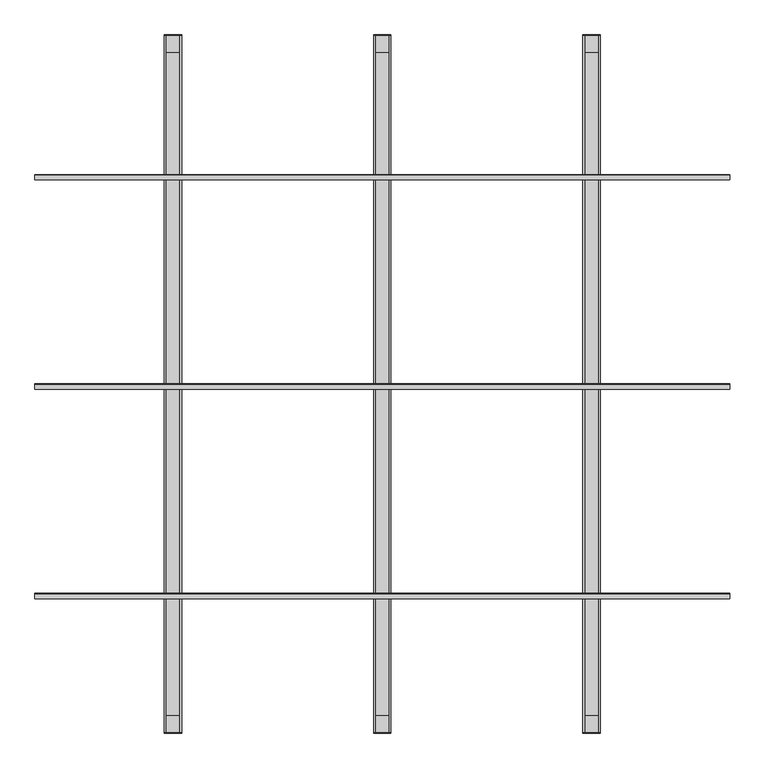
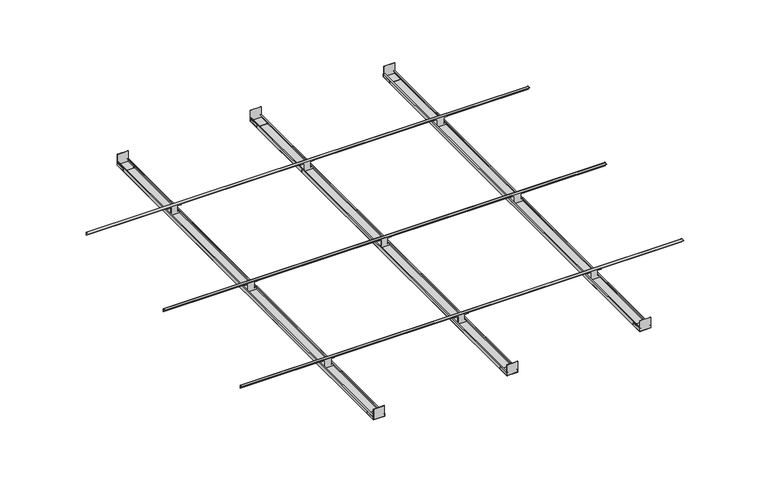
"""IFC4 building model written with IfcOpenShell, lengths in millimetres: proxy geometry, durlum_S5-100 : durlum_S5-100."""

from ifc_helpers import new_model, si_unit, point, frame, frame_2d, origin, place, context, project, spatial, polyline, circle_curve, trimmed, segment, composite_curve, outline, extrude, source, transform, mapped, element, save


def generic_models_e242ee94(model_context):
    return source(origin(), model_context, "Body", "SweptSolid", [
        extrude(outline(polyline([(48.7946553, 1900.0), (48.7946553, 1998.75), (50.0446553, 1998.75), (50.0446553, 1900.0), (48.7946553, 1900.0)])), frame((0.0, 0.0, 5406.6827843), z_axis=(0.0, 0.0, 1.0), x_axis=(1.0, 0.0, 0.0)), (0.0, 0.0, 1.0), 22.9482224),
        extrude(outline(polyline([(-48.7946553, 1900.0), (-50.0446553, 1900.0), (-50.0446553, 1998.75), (-48.7946553, 1998.75), (-48.7946553, 1900.0)])), frame((0.0, 0.0, 5406.6827843), z_axis=(0.0, 0.0, 1.0), x_axis=(1.0, 0.0, 0.0)), (0.0, 0.0, 1.0), 22.9482224),
        extrude(outline(polyline([(2000.0, 5406.6827843), (1900.0, 5406.6827843), (1900.0, 5407.9327843), (1998.75, 5407.9327843), (1998.75, 5506.6827843), (2000.0, 5506.6827843), (2000.0, 5406.6827843)])), frame((-48.7946553, 0.0, 0.0), z_axis=(1.0, 0.0, 0.0), x_axis=(0.0, 1.0, 0.0)), (0.0, 0.0, 1.0), 97.5893106),
        extrude(outline(polyline([(-48.7946553, -1900.0), (-48.7946553, -1998.75), (-50.0446553, -1998.75), (-50.0446553, -1900.0), (-48.7946553, -1900.0)])), frame((0.0, 0.0, 5406.6833069), z_axis=(0.0, 0.0, 1.0), x_axis=(1.0, 0.0, 0.0)), (0.0, 0.0, 1.0), 22.9482224),
        extrude(outline(polyline([(48.7946553, -1900.0), (50.0446553, -1900.0), (50.0446553, -1998.75), (48.7946553, -1998.75), (48.7946553, -1900.0)])), frame((0.0, 0.0, 5406.6833069), z_axis=(0.0, 0.0, 1.0), x_axis=(1.0, 0.0, 0.0)), (0.0, 0.0, 1.0), 22.9482224),
        extrude(outline(polyline([(-2000.0, 5406.6833069), (-2000.0, 5506.6833069), (-1998.75, 5506.6833069), (-1998.75, 5407.9333069), (-1900.0, 5407.9333069), (-1900.0, 5406.6833069), (-2000.0, 5406.6833069)])), frame((-48.7946553, 0.0, 0.0), z_axis=(1.0, 0.0, 0.0), x_axis=(0.0, 1.0, 0.0)), (0.0, 0.0, 1.0), 97.5893106),
        extrude(outline(polyline([(1151.2053447, -1900.0), (1151.2053447, -1998.75), (1149.9553447, -1998.75), (1149.9553447, -1900.0), (1151.2053447, -1900.0)])), frame((0.0, 0.0, 5406.6814603), z_axis=(0.0, 0.0, 1.0), x_axis=(1.0, 0.0, 0.0)), (0.0, 0.0, 1.0), 22.9482224),
        extrude(outline(polyline([(1248.7946553, -1900.0), (1250.0446553, -1900.0), (1250.0446553, -1998.75), (1248.7946553, -1998.75), (1248.7946553, -1900.0)])), frame((0.0, 0.0, 5406.6814603), z_axis=(0.0, 0.0, 1.0), x_axis=(1.0, 0.0, 0.0)), (0.0, 0.0, 1.0), 22.9482224),
        extrude(outline(polyline([(-2000.0, 5406.6814603), (-2000.0, 5506.6814603), (-1998.75, 5506.6814603), (-1998.75, 5407.9314603), (-1900.0, 5407.9314603), (-1900.0, 5406.6814603), (-2000.0, 5406.6814603)])), frame((1151.2053447, 0.0, 0.0), z_axis=(1.0, 0.0, 0.0), x_axis=(0.0, 1.0, 0.0)), (0.0, 0.0, 1.0), 97.5893106),
        extrude(outline(polyline([(1248.7946553, 1900.0), (1248.7946553, 1998.75), (1250.0446553, 1998.75), (1250.0446553, 1900.0), (1248.7946553, 1900.0)])), frame((0.0, 0.0, 5406.6804149), z_axis=(0.0, 0.0, 1.0), x_axis=(1.0, 0.0, 0.0)), (0.0, 0.0, 1.0), 22.9482224),
        extrude(outline(polyline([(1151.2053447, 1900.0), (1149.9553447, 1900.0), (1149.9553447, 1998.75), (1151.2053447, 1998.75), (1151.2053447, 1900.0)])), frame((0.0, 0.0, 5406.6804149), z_axis=(0.0, 0.0, 1.0), x_axis=(1.0, 0.0, 0.0)), (0.0, 0.0, 1.0), 22.9482224),
        extrude(outline(polyline([(2000.0, 5406.6804149), (1900.0, 5406.6804149), (1900.0, 5407.9304149), (1998.75, 5407.9304149), (1998.75, 5506.6804149), (2000.0, 5506.6804149), (2000.0, 5406.6804149)])), frame((1151.2053447, 0.0, 0.0), z_axis=(1.0, 0.0, 0.0), x_axis=(0.0, 1.0, 0.0)), (0.0, 0.0, 1.0), 97.5893106),
        extrude(outline(polyline([(-1248.7946553, -1900.0), (-1248.7946553, -1998.75), (-1250.0446553, -1998.75), (-1250.0446553, -1900.0), (-1248.7946553, -1900.0)])), frame((0.0, 0.0, 5406.6851536), z_axis=(0.0, 0.0, 1.0), x_axis=(1.0, 0.0, 0.0)), (0.0, 0.0, 1.0), 22.9482224),
        extrude(outline(polyline([(-1151.2053447, -1900.0), (-1149.9553447, -1900.0), (-1149.9553447, -1998.75), (-1151.2053447, -1998.75), (-1151.2053447, -1900.0)])), frame((0.0, 0.0, 5406.6851536), z_axis=(0.0, 0.0, 1.0), x_axis=(1.0, 0.0, 0.0)), (0.0, 0.0, 1.0), 22.9482224),
        extrude(outline(polyline([(-2000.0, 5406.6851536), (-2000.0, 5506.6851536), (-1998.75, 5506.6851536), (-1998.75, 5407.9351536), (-1900.0, 5407.9351536), (-1900.0, 5406.6851536), (-2000.0, 5406.6851536)])), frame((-1248.7946553, 0.0, 0.0), z_axis=(1.0, 0.0, 0.0), x_axis=(0.0, 1.0, 0.0)), (0.0, 0.0, 1.0), 97.5893106),
        extrude(outline(polyline([(-1151.2053447, 1900.0), (-1151.2053447, 1998.75), (-1149.9553447, 1998.75), (-1149.9553447, 1900.0), (-1151.2053447, 1900.0)])), frame((0.0, 0.0, 5406.6851536), z_axis=(0.0, 0.0, 1.0), x_axis=(1.0, 0.0, 0.0)), (0.0, 0.0, 1.0), 22.9482224),
        extrude(outline(polyline([(-1248.7946553, 1900.0), (-1250.0446553, 1900.0), (-1250.0446553, 1998.75), (-1248.7946553, 1998.75), (-1248.7946553, 1900.0)])), frame((0.0, 0.0, 5406.6851536), z_axis=(0.0, 0.0, 1.0), x_axis=(1.0, 0.0, 0.0)), (0.0, 0.0, 1.0), 22.9482224),
        extrude(outline(polyline([(2000.0, 5406.6851536), (1900.0, 5406.6851536), (1900.0, 5407.9351536), (1998.75, 5407.9351536), (1998.75, 5506.6851536), (2000.0, 5506.6851536), (2000.0, 5406.6851536)])), frame((-1248.7946553, 0.0, 0.0), z_axis=(1.0, 0.0, 0.0), x_axis=(0.0, 1.0, 0.0)), (0.0, 0.0, 1.0), 97.5893106),
        extrude(outline(polyline([(5430.1851536, 48.2809886), (5430.1851536, 46.8282044), (5426.1442001, 46.8282044), (5426.1442001, 28.0249317), (5478.1717319, 28.0249317), (5478.1717319, 62.346391), (5505.1851536, 62.346391), (5505.1851536, -62.346391), (5478.1717319, -62.346391), (5478.1717319, -28.0249317), (5426.1442001, -28.0249317), (5426.1442001, -46.8282044), (5430.1851536, -46.8282044), (5430.1851536, -48.2809886), (5405.1851536, -48.2809886), (5405.1851536, 48.2809886), (5430.1851536, 48.2809886)])), frame((0.0, -3.9953756, 0.0), z_axis=(0.0, 1.0, 0.0), x_axis=(0.0, 0.0, 1.0)), (0.0, 0.0, 1.0), 1.9953756),
        extrude(outline(polyline([(5430.1851536, -1151.7190114), (5430.1851536, -1153.1717956), (5426.1442001, -1153.1717956), (5426.1442001, -1171.9750683), (5478.1717319, -1171.9750683), (5478.1717319, -1137.653609), (5505.1851536, -1137.653609), (5505.1851536, -1262.346391), (5478.1717319, -1262.346391), (5478.1717319, -1228.0249317), (5426.1442001, -1228.0249317), (5426.1442001, -1246.8282044), (5430.1851536, -1246.8282044), (5430.1851536, -1248.2809886), (5405.1851536, -1248.2809886), (5405.1851536, -1151.7190114), (5430.1851536, -1151.7190114)])), frame((0.0, -3.9953756, 0.0), z_axis=(0.0, 1.0, 0.0), x_axis=(0.0, 0.0, 1.0)), (0.0, 0.0, 1.0), 1.9953756),
        extrude(outline(polyline([(5430.1851536, 1248.2809886), (5430.1851536, 1246.8282044), (5426.1442001, 1246.8282044), (5426.1442001, 1228.0249317), (5478.1717319, 1228.0249317), (5478.1717319, 1262.346391), (5505.1851536, 1262.346391), (5505.1851536, 1137.653609), (5478.1717319, 1137.653609), (5478.1717319, 1171.9750683), (5426.1442001, 1171.9750683), (5426.1442001, 1153.1717956), (5430.1851536, 1153.1717956), (5430.1851536, 1151.7190114), (5405.1851536, 1151.7190114), (5405.1851536, 1248.2809886), (5430.1851536, 1248.2809886)])), frame((0.0, -3.9953756, 0.0), z_axis=(0.0, 1.0, 0.0), x_axis=(0.0, 0.0, 1.0)), (0.0, 0.0, 1.0), 1.9953756),
        extrude(outline(composite_curve([segment(polyline([(-2.0, 5481.2851536), (-2.0, 5507.1851536)]), True, "CONTINUOUS"), segment(trimmed(circle_curve(frame_2d((-4.0, 5507.1851536)), 2.0), [point((-2.0, 5507.1851536))], [point((-4.0, 5509.1851536))], True, "CARTESIAN"), True, "CONTINUOUS"), segment(polyline([(-4.0, 5509.1851536), (-29.9, 5509.1851536), (-29.9, 5511.1851536), (-4.0, 5511.1851536)]), True, "CONTINUOUS"), segment(trimmed(circle_curve(frame_2d((-4.0, 5507.1851536)), 4.0), [point((-4.0, 5511.1851536))], [point((0.0, 5507.1851536))], False, "CARTESIAN"), True, "CONTINUOUS"), segment(polyline([(0.0, 5507.1851536), (0.0, 5481.2851536), (-2.0, 5481.2851536)]), True, "CONTINUOUS")], self_intersect=False)), frame((-1990.0, 0.0, 0.0), z_axis=(1.0, 0.0, 0.0), x_axis=(0.0, 1.0, 0.0)), (0.0, 0.0, 1.0), 3980.0),
        extrude(outline(polyline([(5430.1851536, 48.2809886), (5430.1851536, 46.8282044), (5426.1442001, 46.8282044), (5426.1442001, 28.0249317), (5478.1717319, 28.0249317), (5478.1717319, 62.346391), (5505.1851536, 62.346391), (5505.1851536, -62.346391), (5478.1717319, -62.346391), (5478.1717319, -28.0249317), (5426.1442001, -28.0249317), (5426.1442001, -46.8282044), (5430.1851536, -46.8282044), (5430.1851536, -48.2809886), (5405.1851536, -48.2809886), (5405.1851536, 48.2809886), (5430.1851536, 48.2809886)])), frame((0.0, -1203.9953756, 0.0), z_axis=(0.0, 1.0, 0.0), x_axis=(0.0, 0.0, 1.0)), (0.0, 0.0, 1.0), 1.9953756),
        extrude(outline(polyline([(5430.1851536, -1151.7190114), (5430.1851536, -1153.1717956), (5426.1442001, -1153.1717956), (5426.1442001, -1171.9750683), (5478.1717319, -1171.9750683), (5478.1717319, -1137.653609), (5505.1851536, -1137.653609), (5505.1851536, -1262.346391), (5478.1717319, -1262.346391), (5478.1717319, -1228.0249317), (5426.1442001, -1228.0249317), (5426.1442001, -1246.8282044), (5430.1851536, -1246.8282044), (5430.1851536, -1248.2809886), (5405.1851536, -1248.2809886), (5405.1851536, -1151.7190114), (5430.1851536, -1151.7190114)])), frame((0.0, -1203.9953756, 0.0), z_axis=(0.0, 1.0, 0.0), x_axis=(0.0, 0.0, 1.0)), (0.0, 0.0, 1.0), 1.9953756),
        extrude(outline(polyline([(5430.1851536, 1248.2809886), (5430.1851536, 1246.8282044), (5426.1442001, 1246.8282044), (5426.1442001, 1228.0249317), (5478.1717319, 1228.0249317), (5478.1717319, 1262.346391), (5505.1851536, 1262.346391), (5505.1851536, 1137.653609), (5478.1717319, 1137.653609), (5478.1717319, 1171.9750683), (5426.1442001, 1171.9750683), (5426.1442001, 1153.1717956), (5430.1851536, 1153.1717956), (5430.1851536, 1151.7190114), (5405.1851536, 1151.7190114), (5405.1851536, 1248.2809886), (5430.1851536, 1248.2809886)])), frame((0.0, -1203.9953756, 0.0), z_axis=(0.0, 1.0, 0.0), x_axis=(0.0, 0.0, 1.0)), (0.0, 0.0, 1.0), 1.9953756),
        extrude(outline(composite_curve([segment(polyline([(-1202.0, 5481.2851536), (-1202.0, 5507.1851536)]), True, "CONTINUOUS"), segment(trimmed(circle_curve(frame_2d((-1204.0, 5507.1851536)), 2.0), [point((-1202.0, 5507.1851536))], [point((-1204.0, 5509.1851536))], True, "CARTESIAN"), True, "CONTINUOUS"), segment(polyline([(-1204.0, 5509.1851536), (-1229.9, 5509.1851536), (-1229.9, 5511.1851536), (-1204.0, 5511.1851536)]), True, "CONTINUOUS"), segment(trimmed(circle_curve(frame_2d((-1204.0, 5507.1851536)), 4.0), [point((-1204.0, 5511.1851536))], [point((-1200.0, 5507.1851536))], False, "CARTESIAN"), True, "CONTINUOUS"), segment(polyline([(-1200.0, 5507.1851536), (-1200.0, 5481.2851536), (-1202.0, 5481.2851536)]), True, "CONTINUOUS")], self_intersect=False)), frame((-1990.0, 0.0, 0.0), z_axis=(1.0, 0.0, 0.0), x_axis=(0.0, 1.0, 0.0)), (0.0, 0.0, 1.0), 3980.0),
        extrude(outline(polyline([(5435.1851536, -50.0), (5405.1851536, -50.0), (5405.1851536, 50.0), (5435.1851536, 50.0), (5435.1851536, 40.0), (5434.1851536, 40.0), (5434.1851536, 49.0), (5406.1851536, 49.0), (5406.1851536, -49.0), (5434.1851536, -49.0), (5434.1851536, -40.0), (5435.1851536, -40.0), (5435.1851536, -50.0)])), frame((0.0, -2000.0, 0.0), z_axis=(0.0, 1.0, 0.0), x_axis=(0.0, 0.0, 1.0)), (0.0, 0.0, 1.0), 4000.0),
        extrude(outline(polyline([(5435.1851536, -1250.0), (5405.1851536, -1250.0), (5405.1851536, -1150.0), (5435.1851536, -1150.0), (5435.1851536, -1160.0), (5434.1851536, -1160.0), (5434.1851536, -1151.0), (5406.1851536, -1151.0), (5406.1851536, -1249.0), (5434.1851536, -1249.0), (5434.1851536, -1240.0), (5435.1851536, -1240.0), (5435.1851536, -1250.0)])), frame((0.0, -2000.0, 0.0), z_axis=(0.0, 1.0, 0.0), x_axis=(0.0, 0.0, 1.0)), (0.0, 0.0, 1.0), 4000.0),
        extrude(outline(polyline([(5435.1851536, 1150.0), (5405.1851536, 1150.0), (5405.1851536, 1250.0), (5435.1851536, 1250.0), (5435.1851536, 1240.0), (5434.1851536, 1240.0), (5434.1851536, 1249.0), (5406.1851536, 1249.0), (5406.1851536, 1151.0), (5434.1851536, 1151.0), (5434.1851536, 1160.0), (5435.1851536, 1160.0), (5435.1851536, 1150.0)])), frame((0.0, -2000.0, 0.0), z_axis=(0.0, 1.0, 0.0), x_axis=(0.0, 0.0, 1.0)), (0.0, 0.0, 1.0), 4000.0),
        extrude(outline(polyline([(5430.1851536, 48.2809886), (5430.1851536, 46.8282044), (5426.1442001, 46.8282044), (5426.1442001, 28.0249317), (5478.1717319, 28.0249317), (5478.1717319, 62.346391), (5505.1851536, 62.346391), (5505.1851536, -62.346391), (5478.1717319, -62.346391), (5478.1717319, -28.0249317), (5426.1442001, -28.0249317), (5426.1442001, -46.8282044), (5430.1851536, -46.8282044), (5430.1851536, -48.2809886), (5405.1851536, -48.2809886), (5405.1851536, 48.2809886), (5430.1851536, 48.2809886)])), frame((0.0, 1196.0046244, 0.0), z_axis=(0.0, 1.0, 0.0), x_axis=(0.0, 0.0, 1.0)), (0.0, 0.0, 1.0), 1.9953756),
        extrude(outline(polyline([(5430.1851536, -1151.7190114), (5430.1851536, -1153.1717956), (5426.1442001, -1153.1717956), (5426.1442001, -1171.9750683), (5478.1717319, -1171.9750683), (5478.1717319, -1137.653609), (5505.1851536, -1137.653609), (5505.1851536, -1262.346391), (5478.1717319, -1262.346391), (5478.1717319, -1228.0249317), (5426.1442001, -1228.0249317), (5426.1442001, -1246.8282044), (5430.1851536, -1246.8282044), (5430.1851536, -1248.2809886), (5405.1851536, -1248.2809886), (5405.1851536, -1151.7190114), (5430.1851536, -1151.7190114)])), frame((0.0, 1196.0046244, 0.0), z_axis=(0.0, 1.0, 0.0), x_axis=(0.0, 0.0, 1.0)), (0.0, 0.0, 1.0), 1.9953756),
        extrude(outline(polyline([(5430.1851536, 1248.2809886), (5430.1851536, 1246.8282044), (5426.1442001, 1246.8282044), (5426.1442001, 1228.0249317), (5478.1717319, 1228.0249317), (5478.1717319, 1262.346391), (5505.1851536, 1262.346391), (5505.1851536, 1137.653609), (5478.1717319, 1137.653609), (5478.1717319, 1171.9750683), (5426.1442001, 1171.9750683), (5426.1442001, 1153.1717956), (5430.1851536, 1153.1717956), (5430.1851536, 1151.7190114), (5405.1851536, 1151.7190114), (5405.1851536, 1248.2809886), (5430.1851536, 1248.2809886)])), frame((0.0, 1196.0046244, 0.0), z_axis=(0.0, 1.0, 0.0), x_axis=(0.0, 0.0, 1.0)), (0.0, 0.0, 1.0), 1.9953756),
        extrude(outline(composite_curve([segment(polyline([(1198.0, 5481.2851536), (1198.0, 5507.1851536)]), True, "CONTINUOUS"), segment(trimmed(circle_curve(frame_2d((1196.0, 5507.1851536)), 2.0), [point((1198.0, 5507.1851536))], [point((1196.0, 5509.1851536))], True, "CARTESIAN"), True, "CONTINUOUS"), segment(polyline([(1196.0, 5509.1851536), (1170.1, 5509.1851536), (1170.1, 5511.1851536), (1196.0, 5511.1851536)]), True, "CONTINUOUS"), segment(trimmed(circle_curve(frame_2d((1196.0, 5507.1851536)), 4.0), [point((1196.0, 5511.1851536))], [point((1200.0, 5507.1851536))], False, "CARTESIAN"), True, "CONTINUOUS"), segment(polyline([(1200.0, 5507.1851536), (1200.0, 5481.2851536), (1198.0, 5481.2851536)]), True, "CONTINUOUS")], self_intersect=False)), frame((-1990.0, 0.0, 0.0), z_axis=(1.0, 0.0, 0.0), x_axis=(0.0, 1.0, 0.0)), (0.0, 0.0, 1.0), 3980.0),
    ])


if __name__ == "__main__":
    model = new_model("IFC4")
    model_context = context("Model", 3, world=origin())
    ifc_project = project(units=[si_unit("LENGTHUNIT", "METRE", prefix="MILLI")], contexts=[model_context])
    site = spatial("IfcSite", under=ifc_project)
    building = spatial("IfcBuilding", under=site)
    placement = place(None, origin())
    generic_models_shape = generic_models_e242ee94(model_context)
    element("IfcBuildingElementProxy", 1, Name="durlum_S5-100 : durlum_S5-100", ObjectType="durlum_S5-100 : durlum_S5-100", at=placement, inside=building, context=model_context, shape_type="MappedRepresentation", body=[
        mapped(generic_models_shape, transform((0.0, 0.0, 0.0), x_axis=(1.0, 0.0, 0.0), y_axis=(0.0, 1.0, 0.0), z_axis=(0.0, 0.0, 1.0))),
    ])
    save(model, "model.ifc")
